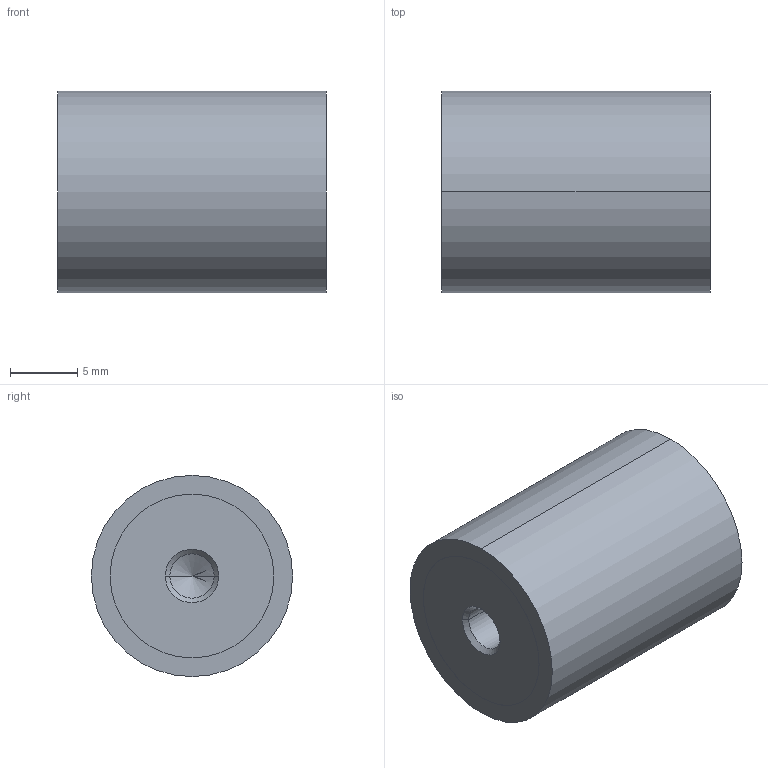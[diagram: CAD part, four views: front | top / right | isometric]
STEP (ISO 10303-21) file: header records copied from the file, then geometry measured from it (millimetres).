
FILE_DESCRIPTION (( 'STEP AP214' ), '1' );
FILE_NAME ('351-15-20-M4-EE-70.step', '2025-07-23T09:39:34', ( '' ), ( '' ), 'SwSTEP 2.0', 'SolidWorks 2022', '' );
FILE_SCHEMA (( 'AUTOMOTIVE_DESIGN' ));
Length unit declared in the file: millimetre
Products named in the file (1): 351-15-20-M4-EE-70
Bounding box: 20 x 15 x 15 mm (x, y, z)
Volume: 3448.7 mm3; surface area: 1388.4 mm2
Topology: 1 solids, 1 shells, 28 faces, 58 edges, 34 vertices
Faces by surface type: cylinder 14, cone 8, plane 6
Entity records: 844 total; most frequent: DIRECTION 144, CARTESIAN_POINT 117, ORIENTED_EDGE 108, AXIS2_PLACEMENT_3D 61, EDGE_CURVE 54, VERTEX_POINT 34, EDGE_LOOP 34, CIRCLE 32
